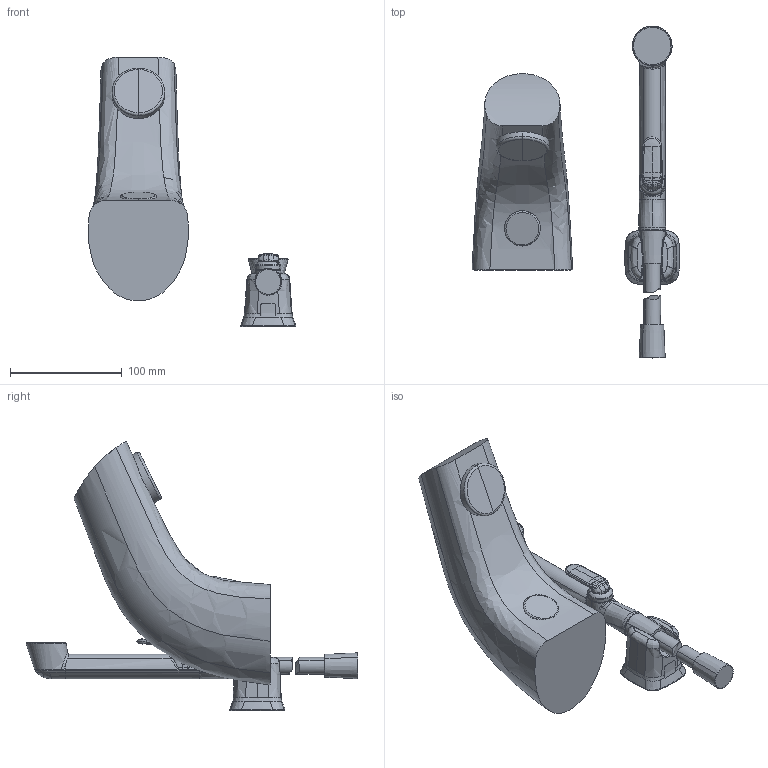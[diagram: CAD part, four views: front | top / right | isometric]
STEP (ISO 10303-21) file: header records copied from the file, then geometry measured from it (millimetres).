
FILE_DESCRIPTION (( 'STEP AP203' ), '1' );
FILE_NAME ('6215Q(2023).STEP', '2023-10-23T09:39:38', ( '' ), ( '' ), 'SwSTEP 2.0', 'SolidWorks 2016', '' );
FILE_SCHEMA (( 'CONFIG_CONTROL_DESIGN' ));
Length unit declared in the file: millimetre
Products named in the file (1): 6215Q(2023)
Bounding box: 185.63 x 296.68 x 240.83 mm (x, y, z)
Volume: 1320996.6 mm3; surface area: 109551.2 mm2
Topology: 8 solids, 8 shells, 293 faces, 720 edges, 444 vertices
Faces by surface type: bspline 221, cone 25, plane 18, cylinder 17, torus 12
Entity records: 68413 total; most frequent: CARTESIAN_POINT 63330, ORIENTED_EDGE 1436, EDGE_CURVE 718, DIRECTION 490, VERTEX_POINT 444, B_SPLINE_CURVE_WITH_KNOTS 401, EDGE_LOOP 296, ADVANCED_FACE 293
